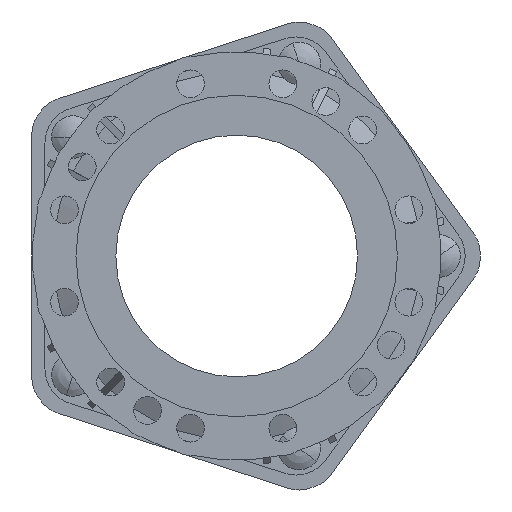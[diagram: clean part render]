
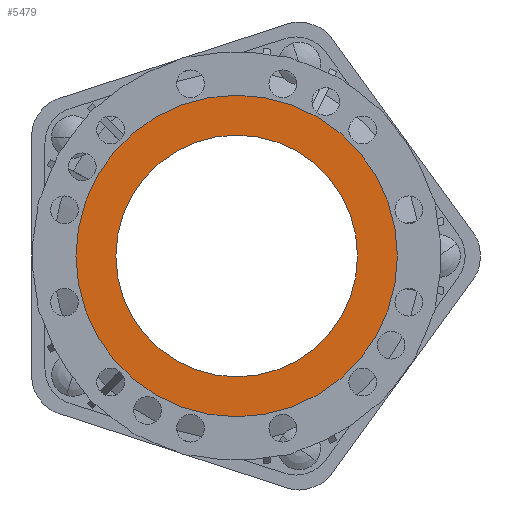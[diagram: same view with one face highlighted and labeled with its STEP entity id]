
A CAD part, front view. The second image highlights one B-rep face of the part: STEP entity #5479.
In plain terms, the highlighted planar face has unit normal (0, -1, 0).
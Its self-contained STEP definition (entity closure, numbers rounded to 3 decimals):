
#2070=CARTESIAN_POINT('',(0.,-66.,0.));
#2071=DIRECTION('',(0.,-1.,0.));
#2072=DIRECTION('',(0.,0.,-1.));
#2073=AXIS2_PLACEMENT_3D('',#2070,#2071,#2072);
#2084=CARTESIAN_POINT('',(0.,-66.,0.));
#2085=DIRECTION('',(0.,1.,0.));
#2086=DIRECTION('',(0.,0.,-1.));
#2087=AXIS2_PLACEMENT_3D('',#2084,#2085,#2086);
#2089=CARTESIAN_POINT('',(0.,-66.,0.));
#2090=DIRECTION('',(0.,-1.,0.));
#2091=DIRECTION('',(-1.,0.,0.));
#2092=AXIS2_PLACEMENT_3D('',#2089,#2090,#2091);
#2099=CARTESIAN_POINT('',(0.,-66.,0.));
#2100=DIRECTION('',(0.,1.,0.));
#2101=DIRECTION('',(-1.,0.,0.));
#2102=AXIS2_PLACEMENT_3D('',#2099,#2100,#2101);
#2548=CARTESIAN_POINT('',(0.,-66.,-133.));
#2549=VERTEX_POINT('',#2548);
#2550=CARTESIAN_POINT('',(-133.,-66.,0.));
#2551=VERTEX_POINT('',#2550);
#2552=CARTESIAN_POINT('',(-100.,-66.,0.));
#2553=CARTESIAN_POINT('',(0.,-66.,-100.));
#2554=VERTEX_POINT('',#2552);
#2555=VERTEX_POINT('',#2553);
#5464=CARTESIAN_POINT('',(0.,-66.,0.));
#5465=DIRECTION('',(0.,-1.,0.));
#5466=DIRECTION('',(0.,0.,-1.));
#5467=AXIS2_PLACEMENT_3D('',#5464,#5465,#5466);
#5468=PLANE('',#5467);
#5469=ORIENTED_EDGE('',*,*,#5457,.F.);
#5470=ORIENTED_EDGE('',*,*,#5444,.F.);
#5471=EDGE_LOOP('',(#5469,#5470));
#5472=FACE_OUTER_BOUND('',#5471,.F.);
#5474=ORIENTED_EDGE('',*,*,#5473,.F.);
#5476=ORIENTED_EDGE('',*,*,#5475,.F.);
#5477=EDGE_LOOP('',(#5474,#5476));
#5478=FACE_BOUND('',#5477,.F.);
#5479=ADVANCED_FACE('',(#5472,#5478),#5468,.T.);
#2074=CIRCLE('',#2073,133.);
#2088=CIRCLE('',#2087,100.);
#2093=CIRCLE('',#2092,133.);
#2103=CIRCLE('',#2102,100.);
#5444=EDGE_CURVE('',#2551,#2549,#2093,.T.);
#5457=EDGE_CURVE('',#2549,#2551,#2074,.T.);
#5473=EDGE_CURVE('',#2554,#2555,#2103,.T.);
#5475=EDGE_CURVE('',#2555,#2554,#2088,.T.);
